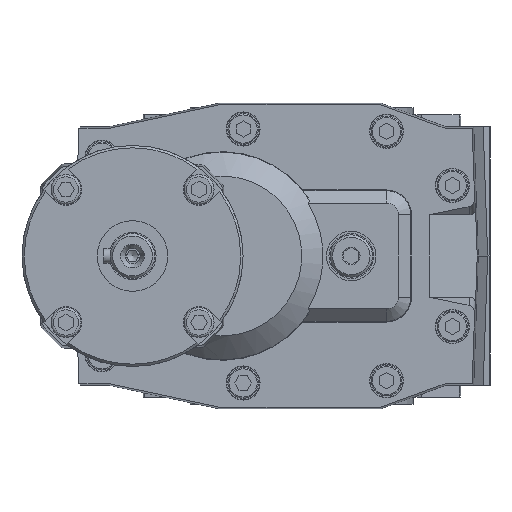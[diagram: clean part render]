
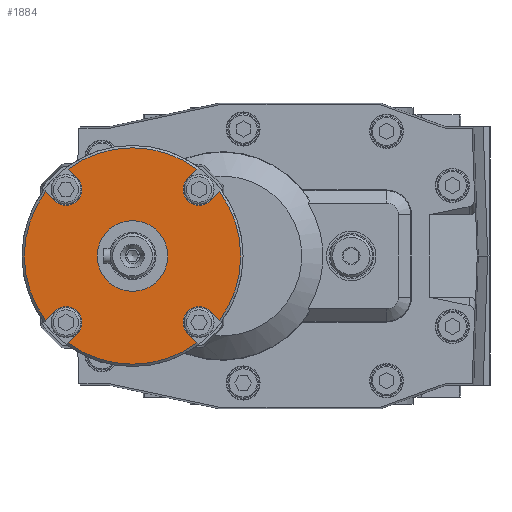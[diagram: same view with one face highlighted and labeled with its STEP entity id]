
A CAD part, left-side view. The second image highlights one B-rep face of the part: STEP entity #1884.
In plain terms, the highlighted planar face has unit normal (-1, 0, 0).
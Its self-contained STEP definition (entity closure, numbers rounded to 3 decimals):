
#1884 = ADVANCED_FACE( '', ( #4575, #4576 ), #4577, .F. );
#4575 = FACE_OUTER_BOUND( '', #8177, .T. );
#4576 = FACE_BOUND( '', #8178, .T. );
#4577 = PLANE( '', #8179 );
#8177 = EDGE_LOOP( '', ( #15050, #15051, #15052, #15053, #15054, #15055, #15056, #15057, #15058, #15059, #15060, #15061, #15062, #15063, #15064, #15065 ) );
#8178 = EDGE_LOOP( '', ( #15066 ) );
#8179 = AXIS2_PLACEMENT_3D( '', #15067, #15068, #15069 );
#15050 = ORIENTED_EDGE( '', *, *, #22392, .T. );
#15051 = ORIENTED_EDGE( '', *, *, #21549, .T. );
#15052 = ORIENTED_EDGE( '', *, *, #22785, .T. );
#15053 = ORIENTED_EDGE( '', *, *, #22691, .T. );
#15054 = ORIENTED_EDGE( '', *, *, #21423, .T. );
#15055 = ORIENTED_EDGE( '', *, *, #22786, .T. );
#15056 = ORIENTED_EDGE( '', *, *, #22787, .T. );
#15057 = ORIENTED_EDGE( '', *, *, #22788, .T. );
#15058 = ORIENTED_EDGE( '', *, *, #22789, .T. );
#15059 = ORIENTED_EDGE( '', *, *, #22790, .T. );
#15060 = ORIENTED_EDGE( '', *, *, #22791, .T. );
#15061 = ORIENTED_EDGE( '', *, *, #22471, .T. );
#15062 = ORIENTED_EDGE( '', *, *, #22792, .T. );
#15063 = ORIENTED_EDGE( '', *, *, #22793, .T. );
#15064 = ORIENTED_EDGE( '', *, *, #22794, .T. );
#15065 = ORIENTED_EDGE( '', *, *, #21625, .T. );
#15066 = ORIENTED_EDGE( '', *, *, #22795, .T. );
#15067 = CARTESIAN_POINT( '', ( -235., 62., 0. ) );
#15068 = DIRECTION( '', ( 1., 0., 0. ) );
#15069 = DIRECTION( '', ( 0., -1., 0. ) );
#21423 = EDGE_CURVE( '', #25401, #25399, #25402, .F. );
#21549 = EDGE_CURVE( '', #25615, #25617, #25619, .F. );
#21625 = EDGE_CURVE( '', #25739, #25740, #25741, .T. );
#22392 = EDGE_CURVE( '', #25740, #25615, #26956, .F. );
#22471 = EDGE_CURVE( '', #27083, #27084, #27085, .T. );
#22691 = EDGE_CURVE( '', #27416, #25401, #27417, .T. );
#22785 = EDGE_CURVE( '', #25617, #27416, #27562, .F. );
#22786 = EDGE_CURVE( '', #25399, #27563, #27564, .F. );
#22787 = EDGE_CURVE( '', #27563, #27565, #27566, .F. );
#22788 = EDGE_CURVE( '', #27565, #27567, #27568, .T. );
#22789 = EDGE_CURVE( '', #27567, #27569, #27570, .F. );
#22790 = EDGE_CURVE( '', #27569, #27571, #27572, .F. );
#22791 = EDGE_CURVE( '', #27571, #27083, #27573, .F. );
#22792 = EDGE_CURVE( '', #27084, #27574, #27575, .F. );
#22793 = EDGE_CURVE( '', #27574, #27576, #27577, .F. );
#22794 = EDGE_CURVE( '', #27576, #25739, #27578, .F. );
#22795 = EDGE_CURVE( '', #27579, #27579, #27580, .T. );
#25399 = VERTEX_POINT( '', #31215 );
#25401 = VERTEX_POINT( '', #31220 );
#25402 = LINE( '', #31221, #31222 );
#25615 = VERTEX_POINT( '', #31635 );
#25617 = VERTEX_POINT( '', #31640 );
#25619 = CIRCLE( '', #31645, 46. );
#25739 = VERTEX_POINT( '', #31942 );
#25740 = VERTEX_POINT( '', #31943 );
#25741 = CIRCLE( '', #31944, 6.75 );
#26956 = LINE( '', #33771, #33772 );
#27083 = VERTEX_POINT( '', #34087 );
#27084 = VERTEX_POINT( '', #34088 );
#27085 = CIRCLE( '', #34089, 6.75 );
#27416 = VERTEX_POINT( '', #34688 );
#27417 = CIRCLE( '', #34689, 6.75 );
#27562 = LINE( '', #34955, #34956 );
#27563 = VERTEX_POINT( '', #34957 );
#27564 = CIRCLE( '', #34958, 46. );
#27565 = VERTEX_POINT( '', #34959 );
#27566 = LINE( '', #34960, #34961 );
#27567 = VERTEX_POINT( '', #34962 );
#27568 = CIRCLE( '', #34963, 6.75 );
#27569 = VERTEX_POINT( '', #34964 );
#27570 = LINE( '', #34965, #34966 );
#27571 = VERTEX_POINT( '', #34967 );
#27572 = CIRCLE( '', #34968, 46. );
#27573 = LINE( '', #34969, #34970 );
#27574 = VERTEX_POINT( '', #34971 );
#27575 = LINE( '', #34972, #34973 );
#27576 = VERTEX_POINT( '', #34974 );
#27577 = CIRCLE( '', #34975, 46. );
#27578 = LINE( '', #34976, #34977 );
#27579 = VERTEX_POINT( '', #34978 );
#27580 = CIRCLE( '', #34979, 15. );
#31215 = CARTESIAN_POINT( '', ( -235., 108.948, 27.402 ) );
#31220 = CARTESIAN_POINT( '', ( -235., 105.057, 23.511 ) );
#31221 = CARTESIAN_POINT( '', ( -235., 71.773, -9.773 ) );
#31222 = VECTOR( '', #38806, 1000. );
#31635 = CARTESIAN_POINT( '', ( -235., 44.598, 36.948 ) );
#31640 = CARTESIAN_POINT( '', ( -235., 99.402, 36.948 ) );
#31645 = AXIS2_PLACEMENT_3D( '', #38934, #38935, #38936 );
#31942 = CARTESIAN_POINT( '', ( -235., 38.943, 23.511 ) );
#31943 = CARTESIAN_POINT( '', ( -235., 48.489, 33.057 ) );
#31944 = AXIS2_PLACEMENT_3D( '', #39019, #39020, #39021 );
#33771 = CARTESIAN_POINT( '', ( -235., 71.773, 9.773 ) );
#33772 = VECTOR( '', #39853, 1000. );
#34087 = CARTESIAN_POINT( '', ( -235., 48.489, -33.057 ) );
#34088 = CARTESIAN_POINT( '', ( -235., 38.943, -23.511 ) );
#34089 = AXIS2_PLACEMENT_3D( '', #39928, #39929, #39930 );
#34688 = CARTESIAN_POINT( '', ( -235., 95.511, 33.057 ) );
#34689 = AXIS2_PLACEMENT_3D( '', #40150, #40151, #40152 );
#34955 = CARTESIAN_POINT( '', ( -235., 62.227, -0.227 ) );
#34956 = VECTOR( '', #40239, 1000. );
#34957 = CARTESIAN_POINT( '', ( -235., 108.948, -27.402 ) );
#34958 = AXIS2_PLACEMENT_3D( '', #40240, #40241, #40242 );
#34959 = CARTESIAN_POINT( '', ( -235., 105.057, -23.511 ) );
#34960 = CARTESIAN_POINT( '', ( -235., 71.773, 9.773 ) );
#34961 = VECTOR( '', #40243, 1000. );
#34962 = CARTESIAN_POINT( '', ( -235., 95.511, -33.057 ) );
#34963 = AXIS2_PLACEMENT_3D( '', #40244, #40245, #40246 );
#34964 = CARTESIAN_POINT( '', ( -235., 99.402, -36.948 ) );
#34965 = CARTESIAN_POINT( '', ( -235., 62.227, 0.227 ) );
#34966 = VECTOR( '', #40247, 1000. );
#34967 = CARTESIAN_POINT( '', ( -235., 44.598, -36.948 ) );
#34968 = AXIS2_PLACEMENT_3D( '', #40248, #40249, #40250 );
#34969 = CARTESIAN_POINT( '', ( -235., 71.773, -9.773 ) );
#34970 = VECTOR( '', #40251, 1000. );
#34971 = CARTESIAN_POINT( '', ( -235., 35.052, -27.402 ) );
#34972 = CARTESIAN_POINT( '', ( -235., 62.227, -0.227 ) );
#34973 = VECTOR( '', #40252, 1000. );
#34974 = CARTESIAN_POINT( '', ( -235., 35.052, 27.402 ) );
#34975 = AXIS2_PLACEMENT_3D( '', #40253, #40254, #40255 );
#34976 = CARTESIAN_POINT( '', ( -235., 62.227, 0.227 ) );
#34977 = VECTOR( '', #40256, 1000. );
#34978 = CARTESIAN_POINT( '', ( -235., 57., 0. ) );
#34979 = AXIS2_PLACEMENT_3D( '', #40257, #40258, #40259 );
#38806 = DIRECTION( '', ( 0., -0.707, -0.707 ) );
#38934 = CARTESIAN_POINT( '', ( -235., 72., 0. ) );
#38935 = DIRECTION( '', ( 1., 0., 0. ) );
#38936 = DIRECTION( '', ( 0., -1., 0. ) );
#39019 = CARTESIAN_POINT( '', ( -235., 43.716, 28.284 ) );
#39020 = DIRECTION( '', ( 1., 0., 0. ) );
#39021 = DIRECTION( '', ( 0., -1., 0. ) );
#39853 = DIRECTION( '', ( 0., 0.707, -0.707 ) );
#39928 = CARTESIAN_POINT( '', ( -235., 43.716, -28.284 ) );
#39929 = DIRECTION( '', ( 1., 0., 0. ) );
#39930 = DIRECTION( '', ( 0., -1., 0. ) );
#40150 = CARTESIAN_POINT( '', ( -235., 100.284, 28.284 ) );
#40151 = DIRECTION( '', ( 1., 0., 0. ) );
#40152 = DIRECTION( '', ( 0., -1., 0. ) );
#40239 = DIRECTION( '', ( 0., 0.707, 0.707 ) );
#40240 = CARTESIAN_POINT( '', ( -235., 72., 0. ) );
#40241 = DIRECTION( '', ( 1., 0., 0. ) );
#40242 = DIRECTION( '', ( 0., -1., 0. ) );
#40243 = DIRECTION( '', ( 0., 0.707, -0.707 ) );
#40244 = CARTESIAN_POINT( '', ( -235., 100.284, -28.284 ) );
#40245 = DIRECTION( '', ( 1., 0., 0. ) );
#40246 = DIRECTION( '', ( 0., -1., 0. ) );
#40247 = DIRECTION( '', ( 0., -0.707, 0.707 ) );
#40248 = CARTESIAN_POINT( '', ( -235., 72., 0. ) );
#40249 = DIRECTION( '', ( 1., 0., 0. ) );
#40250 = DIRECTION( '', ( 0., -1., 0. ) );
#40251 = DIRECTION( '', ( 0., -0.707, -0.707 ) );
#40252 = DIRECTION( '', ( 0., 0.707, 0.707 ) );
#40253 = CARTESIAN_POINT( '', ( -235., 72., 0. ) );
#40254 = DIRECTION( '', ( 1., 0., 0. ) );
#40255 = DIRECTION( '', ( 0., -1., 0. ) );
#40256 = DIRECTION( '', ( 0., -0.707, 0.707 ) );
#40257 = CARTESIAN_POINT( '', ( -235., 72., 0. ) );
#40258 = DIRECTION( '', ( 1., 0., 0. ) );
#40259 = DIRECTION( '', ( 0., -1., 0. ) );
